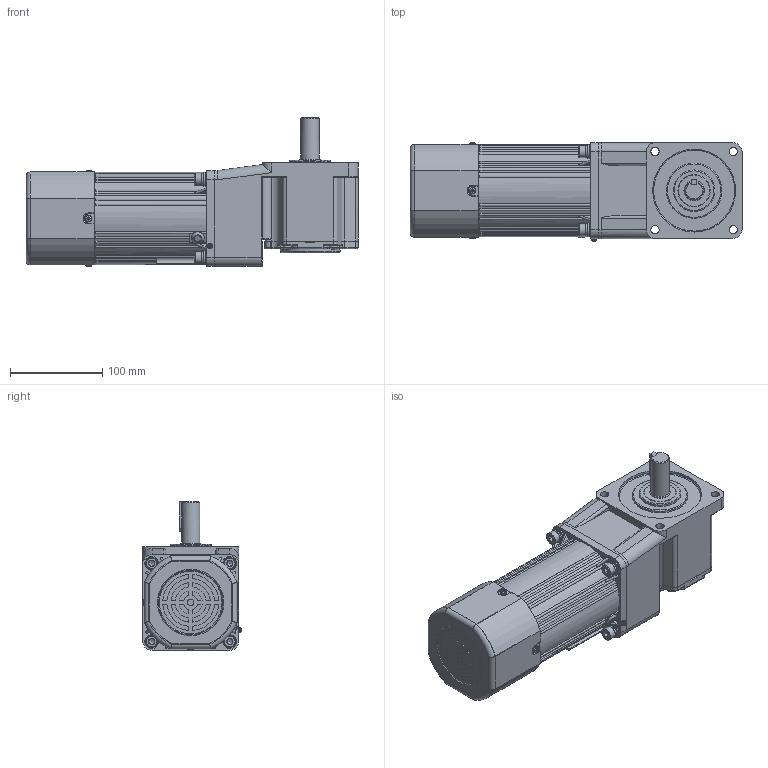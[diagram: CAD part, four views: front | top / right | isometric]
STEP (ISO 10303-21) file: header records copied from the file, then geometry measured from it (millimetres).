
FILE_DESCRIPTION(/* description */ (''),/* implementation_level */ '2;1');
FILE_NAME(/* name */ '100+直角中实-刹车调速风叶-160-250W 新版.stp',/* time_stamp */ '2025-03-25T15:44:41+08:00',/* author */ (''),/* organization */ (''),/* preprocessor_version */ 'ST-DEVELOPER v18.102',/* originating_system */ 'SIEMENS PLM Software NX 2027',/* authorisation */ '');
FILE_SCHEMA (('AP203_CONFIGURATION_CONTROLLED_3D_DESIGN_OF_MECHANICAL_PARTS_AND_ASSEMBLIES_MIM_LF { 1 0 10303 403 2 1 2}'));
Length unit declared in the file: millimetre
Products named in the file (1): 6RK160-200CC·MRF_6GU3-750K-C·15L_stp_M066166857A1
nlt8
Bounding box: 360.5 x 106.83 x 161.53 mm (x, y, z)
Volume: 3459844.6 mm3; surface area: 436360.3 mm2
Topology: 25 solids, 25 shells, 1698 faces, 4380 edges, 2836 vertices
Faces by surface type: plane 743, cylinder 527, bspline 214, torus 99, cone 91, sphere 24
Full cylindrical faces by diameter (mm): 2.5 x2, 2.6 x2, 2.7 x1, 3 x1, 3.2 x2, 3.3 x4, 3.5 x4, 3.6 x4, 4 x4, 4.55 x2, 5.1 x2, 5.15 x2, 6 x10, 6.8 x12, 7 x2, 7.5 x2, 7.76 x4, 8.4 x4, 9 x13, 9.3 x1, 9.5 x4, 13 x4, 14 x8, 15 x5, 15.5 x2, 19 x2, 20 x1, 22 x1, 27 x1, 28 x1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
Entity records: 52528 total; most frequent: CARTESIAN_POINT 13267, ORIENTED_EDGE 7996, DIRECTION 7693, EDGE_CURVE 3998, AXIS2_PLACEMENT_3D 3043, VERTEX_POINT 2702, EDGE_LOOP 2141, ADVANCED_FACE 1697
